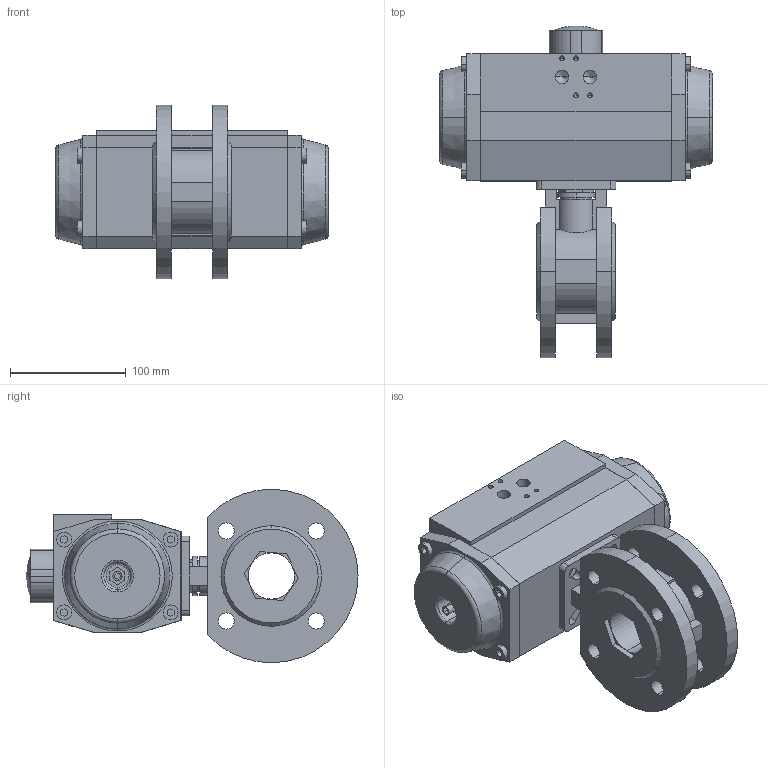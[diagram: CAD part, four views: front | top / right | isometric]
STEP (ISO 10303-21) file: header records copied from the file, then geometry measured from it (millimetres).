
FILE_DESCRIPTION (( 'STEP AP214' ), '1' );
FILE_NAME ('S15D DN40 + AP3.5.STEP', '2012-04-24T08:18:04', ( 'Jan' ), ( '' ), 'SwSTEP 2.0', 'SolidWorks 2011', '' );
FILE_SCHEMA (( 'AUTOMOTIVE_DESIGN' ));
Length unit declared in the file: millimetre
Products named in the file (3): S15D DN40 + AP3.5; S15D KK DN40 PN16; AP3.5_Default<As Machined>
Assembly tree (2 placements, depth 2):
  S15D DN40 + AP3.5
    AP3.5_Default<As Machined>
    S15D KK DN40 PN16
Bounding box: 236 x 286.99 x 150 mm (x, y, z)
Volume: 2848744.6 mm3; surface area: 235095.9 mm2
Topology: 9 solids, 9 shells, 405 faces, 1019 edges, 651 vertices
Faces by surface type: plane 231, cylinder 120, cone 36, torus 16, sphere 2
Entity records: 13360 total; most frequent: CARTESIAN_POINT 2131, DIRECTION 2101, ORIENTED_EDGE 1982, EDGE_CURVE 991, AXIS2_PLACEMENT_3D 703, LINE 695, VECTOR 695, VERTEX_POINT 651
